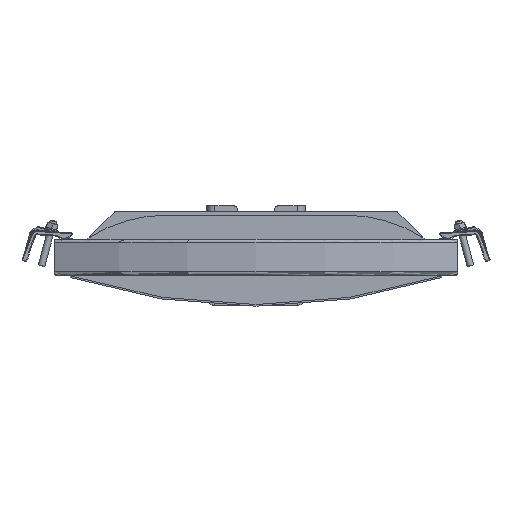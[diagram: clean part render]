
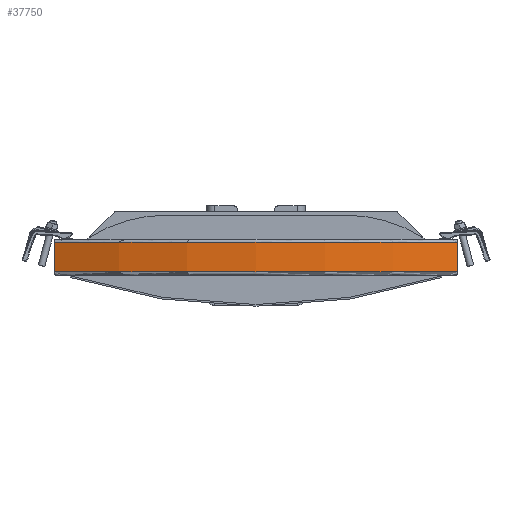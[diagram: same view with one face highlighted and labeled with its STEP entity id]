
A CAD part, front view. The second image highlights one B-rep face of the part: STEP entity #37750.
In plain terms, the highlighted cylindrical face has radius 552 mm (diameter 1104 mm), a partial arc.
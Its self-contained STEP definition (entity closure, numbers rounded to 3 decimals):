
#1854 = CIRCLE ( 'NONE', #58148, 552. ) ;
#4504 = CARTESIAN_POINT ( 'NONE',  ( -245.333, 45.515, 40. ) ) ;
#5001 = DIRECTION ( 'NONE',  ( -1., 0., 0. ) ) ;
#6353 = LINE ( 'NONE', #25583, #55376 ) ;
#6475 = CIRCLE ( 'NONE', #56724, 552. ) ;
#9180 = ORIENTED_EDGE ( 'NONE', *, *, #12771, .F. ) ;
#12771 = EDGE_CURVE ( 'NONE', #61453, #33603, #6475, .T. ) ;
#13903 = ORIENTED_EDGE ( 'NONE', *, *, #29089, .T. ) ;
#13942 = DIRECTION ( 'NONE',  ( -1., 0., 0. ) ) ;
#14645 = CARTESIAN_POINT ( 'NONE',  ( 0., 540., 4. ) ) ;
#18043 = CARTESIAN_POINT ( 'NONE',  ( 0., 540., 40. ) ) ;
#21341 = EDGE_CURVE ( 'NONE', #50646, #61453, #28262, .T. ) ;
#25305 = CARTESIAN_POINT ( 'NONE',  ( 245.333, 45.515, 4. ) ) ;
#25583 = CARTESIAN_POINT ( 'NONE',  ( -245.333, 45.515, 40. ) ) ;
#28262 = LINE ( 'NONE', #62091, #59393 ) ;
#28674 = CARTESIAN_POINT ( 'NONE',  ( 0., 540., 0. ) ) ;
#29089 = EDGE_CURVE ( 'NONE', #58211, #33603, #6353, .T. ) ;
#33015 = DIRECTION ( 'NONE',  ( -1., 0., 0. ) ) ;
#33420 = FACE_OUTER_BOUND ( 'NONE', #51730, .T. ) ;
#33603 = VERTEX_POINT ( 'NONE', #59777 ) ;
#33840 = DIRECTION ( 'NONE',  ( 0., 0., -1. ) ) ;
#37285 = DIRECTION ( 'NONE',  ( 0., 0., -1. ) ) ;
#37750 = ADVANCED_FACE ( 'NONE', ( #33420 ), #42798, .T. ) ;
#37789 = ORIENTED_EDGE ( 'NONE', *, *, #21341, .F. ) ;
#39974 = EDGE_CURVE ( 'NONE', #50646, #58211, #1854, .T. ) ;
#42202 = DIRECTION ( 'NONE',  ( 0., 0., -1. ) ) ;
#42798 = CYLINDRICAL_SURFACE ( 'NONE', #55708, 552. ) ;
#47940 = CARTESIAN_POINT ( 'NONE',  ( 245.333, 45.515, 40. ) ) ;
#50646 = VERTEX_POINT ( 'NONE', #47940 ) ;
#51730 = EDGE_LOOP ( 'NONE', ( #37789, #55403, #13903, #9180 ) ) ;
#55376 = VECTOR ( 'NONE', #33840, 1000. ) ;
#55403 = ORIENTED_EDGE ( 'NONE', *, *, #39974, .T. ) ;
#55708 = AXIS2_PLACEMENT_3D ( 'NONE', #28674, #42202, #5001 ) ;
#56724 = AXIS2_PLACEMENT_3D ( 'NONE', #14645, #56799, #33015 ) ;
#56799 = DIRECTION ( 'NONE',  ( 0., 0., -1. ) ) ;
#57693 = DIRECTION ( 'NONE',  ( 0., 0., -1. ) ) ;
#58148 = AXIS2_PLACEMENT_3D ( 'NONE', #18043, #37285, #13942 ) ;
#58211 = VERTEX_POINT ( 'NONE', #4504 ) ;
#59393 = VECTOR ( 'NONE', #57693, 1000. ) ;
#59777 = CARTESIAN_POINT ( 'NONE',  ( -245.333, 45.515, 4. ) ) ;
#61453 = VERTEX_POINT ( 'NONE', #25305 ) ;
#62091 = CARTESIAN_POINT ( 'NONE',  ( 245.333, 45.515, 40. ) ) ;
